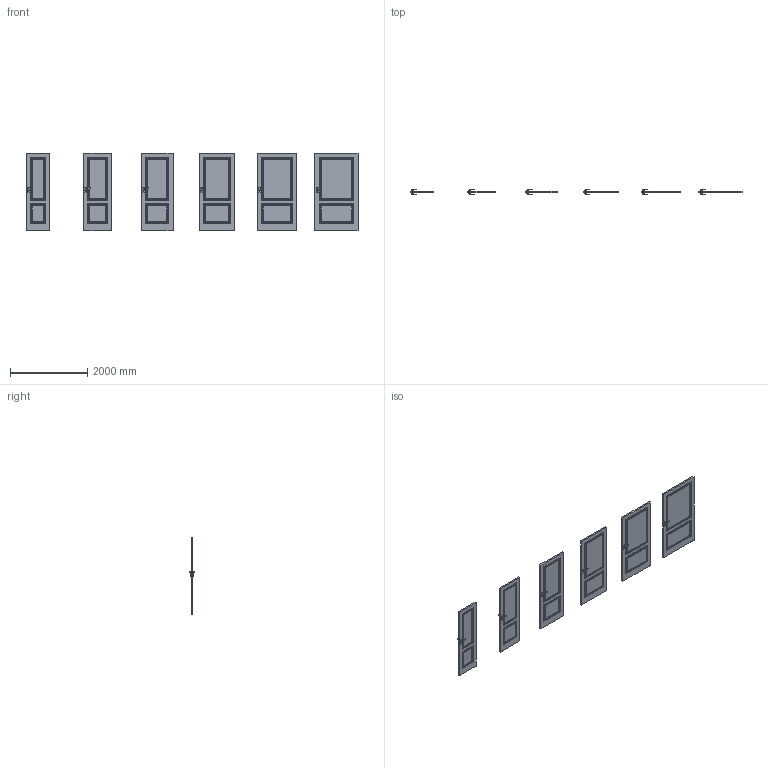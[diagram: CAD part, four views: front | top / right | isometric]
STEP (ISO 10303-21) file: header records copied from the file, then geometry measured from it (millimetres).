
FILE_DESCRIPTION(/* description */ (''),/* implementation_level */ '2;1');
FILE_NAME(/* name */ '049709_A_2-Skrzydło VECTOR V_ polska norma _PN__ bezprzylgowe..stp',/* time_stamp */ '2024-02-14T11:22:16+01:00',/* author */ (''),/* organization */ (''),/* preprocessor_version */ 'ST-DEVELOPER v16',/* originating_system */ 'SIEMENS PLM Software NX 11.0',/* authorisation */ '');
FILE_SCHEMA (('AUTOMOTIVE_DESIGN { 1 0 10303 214 3 1 1 1 }'));
Products named in the file (1): bkni07C850E0u659
Bounding box: 8618 x 153.27 x 2017 mm (x, y, z)
Volume: 412355990 mm3; surface area: 22760810.8 mm2
Topology: 30 solids, 30 shells, 3936 faces, 8796 edges, 4992 vertices
Faces by surface type: bspline 2112, plane 1392, cylinder 264, sphere 168
Entity records: 111148 total; most frequent: CARTESIAN_POINT 38653, ORIENTED_EDGE 17256, DIRECTION 11486, EDGE_CURVE 8628, LINE 5628, VECTOR 5628, VERTEX_POINT 4992, EDGE_LOOP 4200
